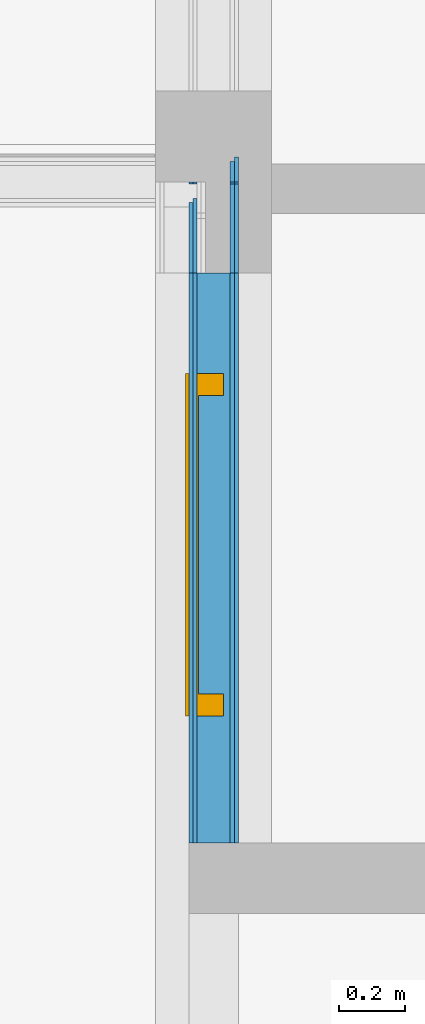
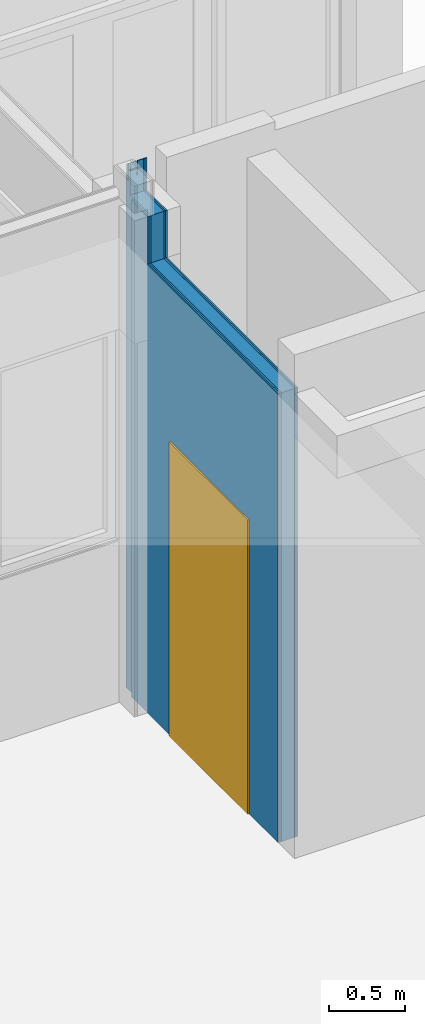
# One storey, part 33 of 54: 5 building element parts, 1 door, 1 opening, 1 element without a shape of its own.
"""IFC2X3 building model written with IfcOpenShell, lengths in millimetres."""

from ifc_helpers import new_model, entity, si_unit, converted_unit, derived_unit, money_unit, direction, frame, origin_with_axes, place, context, subcontext, project, spatial, faceted_brep, source, transform, mapped, material, type_object, type_shapes, element, fill, aggregate, save


model = new_model("IFC2X3")

# Units and contexts
model_context = context("Model", 3, precision=0.01, world=origin_with_axes(), true_north=direction((0.0, 1.0)))
body_context = subcontext(model_context, "Body", "Model", "MODEL_VIEW")
ifc_project = project(units=[si_unit("LENGTHUNIT", "METRE", prefix="MILLI"), si_unit("AREAUNIT", "SQUARE_METRE"), si_unit("VOLUMEUNIT", "CUBIC_METRE"), converted_unit("PLANEANGLEUNIT", "DEGREE", entity("IfcPlaneAngleMeasure", 0.0174532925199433), si_unit("PLANEANGLEUNIT", "RADIAN"), dimensions=[0, 0, 0, 0, 0, 0, 0]), money_unit("EUR"), converted_unit("TIMEUNIT", "Year", entity("IfcTimeMeasure", 31557600.0), si_unit("TIMEUNIT", "SECOND"), dimensions=[0, 0, 1, 0, 0, 0, 0]), si_unit("MASSUNIT", "GRAM", prefix="KILO"), si_unit("THERMODYNAMICTEMPERATUREUNIT", "DEGREE_CELSIUS"), si_unit("LUMINOUSINTENSITYUNIT", "LUMEN"), si_unit("ENERGYUNIT", "JOULE", prefix="MEGA"), derived_unit("THERMALCONDUCTANCEUNIT", [(si_unit("POWERUNIT", "WATT"), 1), (si_unit("LENGTHUNIT", "METRE"), -1), (si_unit("THERMODYNAMICTEMPERATUREUNIT", "KELVIN"), -1)]), derived_unit("SPECIFICHEATCAPACITYUNIT", [(si_unit("ENERGYUNIT", "JOULE"), 1), (si_unit("MASSUNIT", "GRAM", prefix="KILO"), -1), (si_unit("THERMODYNAMICTEMPERATUREUNIT", "KELVIN"), -1)]), derived_unit("MASSDENSITYUNIT", [(si_unit("MASSUNIT", "GRAM", prefix="KILO"), 1), (si_unit("VOLUMEUNIT", "CUBIC_METRE"), -1)])], contexts=[model_context])

# Site, building, storey
site_placement = place(None, origin_with_axes())
site = spatial("IfcSite", under=ifc_project, at=site_placement, Name="<site naam>", CompositionType="ELEMENT")
building_placement = place(site_placement, origin_with_axes())
building = spatial("IfcBuilding", under=site, at=building_placement, Name="<Naam gebouw>", CompositionType="ELEMENT")
storey_placement = place(building_placement, frame((0.0, 0.0, 8500.0), z_axis=(0.0, 0.0, 1.0), x_axis=(1.0, 0.0, 0.0)))
storey = spatial("IfcBuildingStorey", under=building, at=storey_placement, Name="02 2e verdieping", CompositionType="ELEMENT", Elevation=8500.0)

# Door
door_style = type_object("IfcDoorStyle", Name="D1 27", ConstructionType="NOTDEFINED", OperationType="SINGLE_SWING_RIGHT", ParameterTakesPrecedence=False, Sizeable=False)
shared_shape = source(origin_with_axes(), body_context, "Body", "Brep", [
    faceted_brep([(-449.9999999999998, -40.0, 0.0), (-450.0, -39.99999999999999, 2300.0), (-450.0, -114.0, 2300.0), (-450.0, -114.0, 0.0), (-467.0, -40.0, 2300.0), (-467.0, -40.0, 0.0), (-467.0, 0.0, 2300.0), (-517.0, 0.0, 2300.0), (-517.0, -114.0, 2300.0), (-517.0, -114.0, 0.0), (-517.0, 0.0, 0.0), (-467.0, 0.0, 0.0)], [[[0, 1, 2, 3]], [[4, 1, 0, 5]], [[4, 6, 7, 8, 2, 1]], [[3, 2, 8, 9]], [[5, 0, 3, 9, 10, 11]], [[6, 4, 5, 11]], [[6, 11, 10, 7]], [[10, 9, 8, 7]]]),
    faceted_brep([(467.0, -40.0, 2300.0), (450.0, -39.99999999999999, 2300.0), (450.0, -114.0, 2300.0), (517.0, -114.0, 2300.0), (517.0, 0.0, 2300.0), (467.0, 0.0, 2300.0), (467.0, -40.0, 0.0), (450.0, -40.0, 0.0), (450.0, -114.0, 0.0), (517.0, -114.0, 0.0), (517.0, 0.0, 0.0), (467.0, 0.0, 0.0)], [[[0, 1, 2, 3, 4, 5]], [[1, 0, 6, 7]], [[1, 7, 8, 2]], [[3, 2, 8, 9]], [[4, 3, 9, 10]], [[11, 5, 4, 10]], [[0, 5, 11, 6]], [[6, 11, 10, 9, 8, 7]]]),
    faceted_brep([(-467.0, 0.0, 2317.0), (-467.0, 0.0, 2300.0), (-517.0, 0.0, 2300.0), (-517.0, 0.0, 2367.0), (517.0, 0.0, 2367.0), (517.0, 0.0, 2300.0), (467.0, 0.0, 2300.0), (467.0, 0.0, 2317.0), (-467.0, -40.0, 2317.0), (-467.0, -40.0, 2300.0), (-450.0, -39.99999999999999, 2300.0), (-450.0, -114.0, 2300.0), (-517.0, -114.0, 2300.0), (-517.0, -114.0, 2367.0), (517.0, -114.0, 2367.0), (517.0, -114.0, 2300.0), (467.0, -40.0, 2300.0), (450.0, -114.0, 2300.0), (450.0, -39.99999999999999, 2300.0), (467.0, -40.0, 2317.0)], [[[0, 1, 2, 3, 4, 5, 6, 7]], [[1, 0, 8, 9]], [[9, 10, 11, 12, 2, 1]], [[2, 12, 13, 3]], [[3, 13, 14, 4]], [[4, 14, 15, 5]], [[16, 6, 5, 15, 17, 18]], [[7, 6, 16, 19]], [[0, 7, 19, 8]], [[16, 18, 10, 9, 8, 19]], [[10, 18, 17, 11]], [[17, 15, 14, 13, 12, 11]]]),
    faceted_brep([(467.0000000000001, 0.0, 0.0), (467.0000000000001, -40.0, 0.0), (-467.0, -40.0, 0.0), (-467.0, 0.0, 0.0), (467.0000000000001, 0.0, 2317.0), (467.0000000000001, -40.00000000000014, 2317.0), (-467.0, -40.00000000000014, 2317.0), (-467.0, 0.0, 2317.0)], [[[0, 1, 2, 3]], [[4, 5, 1, 0]], [[1, 5, 6, 2]], [[3, 2, 6, 7]], [[0, 3, 7, 4]], [[7, 6, 5, 4]]]),
])
type_shapes(door_style, [shared_shape])
wall_placement = place(storey_placement, frame((48000.00000000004, 8000.000000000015, 0.0), z_axis=(0.0, 0.0, 1.0), x_axis=(0.0, -1.0, 0.0)))
opening_placement = place(wall_placement, frame((1094.999999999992, 0.0, 0.0), z_axis=(0.0, 0.0, 1.0), x_axis=(1.0, 0.0, 0.0)))
door_placement = place(opening_placement, frame((450.0000000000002, 0.0, 0.0), z_axis=(0.0, 0.0, 1.0), x_axis=(-1.0, 0.0, 0.0)))
door = element("IfcDoor", 1, at=door_placement, inside=storey, type_object=door_style, Name="22_BI-A-04 sp_305", ObjectType="DOOR", OverallHeight=2367.0, OverallWidth=1034.0, context=body_context, shape_type="MappedRepresentation", body=[
    mapped(shared_shape, transform((450.0000000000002, 85.00000000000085, 0.0))),
])

# Wall, opening
wall_type = type_object("IfcWallType", Name="MS-01 GF 150 ECO DGS/2.100.2.A 150", PredefinedType="NOTDEFINED")
wall = element("IfcWall", 2, at=wall_placement, inside=storey, type_object=wall_type, Name="22_Binnenwand_MS-01")
opening = element("IfcOpeningElement", 3, at=opening_placement, cuts=wall, Name="22_BI-A-04 sp_305", context=body_context, shape_type="Brep", body=[
    faceted_brep([(517.0000000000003, 76.00000000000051, 2367.000000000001), (517.0000000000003, 76.00000000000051, 0.0), (-517.0000000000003, 76.00000000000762, 0.0), (-517.0000000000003, 76.00000000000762, 2367.000000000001), (517.0000000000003, -76.00000000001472, 2367.000000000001), (517.0000000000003, -76.00000000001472, 0.0), (-517.0000000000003, -76.00000000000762, 0.0), (-517.0000000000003, -76.00000000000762, 2367.000000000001)], [[[0, 1, 2, 3]], [[4, 5, 1, 0]], [[5, 6, 2, 1]], [[6, 7, 3, 2]], [[7, 4, 0, 3]], [[6, 5, 4, 7]]]),
])

fill(opening, door)

# Building element part
ifc_material_1 = material(Name="gipsplaat")
building_element_part_1_placement = place(wall_placement, origin_with_axes())
building_element_part_1 = element("IfcBuildingElementPart", 4, at=building_element_part_1_placement, material=ifc_material_1, Name="gipsplaat", context=body_context, shape_type="Brep", body=[
    faceted_brep([(5.546149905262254, 62.5, 4250.0), (5.546149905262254, 75.00000000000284, 4250.0), (0.0, 75.00000000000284, 4250.0), (0.0, 62.5, 4250.0), (5.546149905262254, 75.00000000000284, 3990.0), (5.546149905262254, 62.5, 3990.0), (274.9999999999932, 75.00000000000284, 3610.000000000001), (1995.000001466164, 75.00000000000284, 3610.000000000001), (1995.000001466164, 75.00000000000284, 0.0), (-75.0000274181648, 75.00000000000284, 0.0), (-75.0000274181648, 75.00000000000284, 4119.999999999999), (0.0, 75.00000000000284, 4119.999999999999), (274.9999999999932, 75.00000000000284, 3990.0), (0.0, 62.5, 4119.999999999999), (-75.0000274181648, 62.5, 4119.999999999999), (-75.0000274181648, 62.5, 0.0), (1995.000001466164, 62.5, 0.0), (1995.000001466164, 62.5, 3610.000000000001), (274.9999999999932, 62.5, 3610.000000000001), (274.9999999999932, 62.5, 3990.0)], [[[0, 1, 2, 3]], [[4, 1, 0, 5]], [[6, 7, 8, 9, 10, 11, 2, 1, 4, 12]], [[3, 2, 11, 13]], [[5, 0, 3, 13, 14, 15, 16, 17, 18, 19]], [[12, 4, 5, 19]], [[7, 6, 18, 17]], [[7, 17, 16, 8]], [[16, 15, 9, 8]], [[14, 10, 9, 15]], [[11, 10, 14, 13]], [[6, 12, 19, 18]]]),
])

building_element_part_2_placement = place(wall_placement, origin_with_axes())
building_element_part_2 = element("IfcBuildingElementPart", 5, at=building_element_part_2_placement, material=ifc_material_1, Name="gipsplaat", context=body_context, shape_type="Brep", body=[
    faceted_brep([(5.546149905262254, 49.99999999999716, 4250.0), (5.546149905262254, 62.5, 4250.0), (0.0, 62.5, 4250.0), (0.0, 49.99999999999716, 4250.0), (5.546149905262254, 62.5, 3990.0), (5.546149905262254, 49.99999999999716, 3990.0), (274.9999999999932, 62.5, 3610.000000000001), (1995.000001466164, 62.5, 3610.000000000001), (1995.000001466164, 62.5, 0.0), (-62.50000000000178, 62.5, 0.0), (-62.50000000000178, 62.5, 4119.999999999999), (0.0, 62.5, 4119.999999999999), (274.9999999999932, 62.5, 3990.0), (0.0, 49.99999999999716, 4119.999999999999), (-62.50000000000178, 49.99999999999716, 4119.999999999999), (-62.50000000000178, 49.99999999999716, 0.0), (1995.000001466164, 49.99999999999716, 0.0), (1995.000001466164, 49.99999999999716, 3610.000000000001), (274.9999999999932, 49.99999999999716, 3610.000000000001), (274.9999999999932, 49.99999999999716, 3990.0)], [[[0, 1, 2, 3]], [[4, 1, 0, 5]], [[6, 7, 8, 9, 10, 11, 2, 1, 4, 12]], [[3, 2, 11, 13]], [[5, 0, 3, 13, 14, 15, 16, 17, 18, 19]], [[12, 4, 5, 19]], [[7, 6, 18, 17]], [[7, 17, 16, 8]], [[9, 8, 16, 15]], [[10, 9, 15, 14]], [[14, 13, 11, 10]], [[6, 12, 19, 18]]]),
])

ifc_material_2 = material(Name="isolatie_steenwol LSW")
building_element_part_3_placement = place(wall_placement, origin_with_axes())
building_element_part_3 = element("IfcBuildingElementPart", 6, at=building_element_part_3_placement, material=ifc_material_2, Name="isolatie_steenwol LSW", context=body_context, shape_type="Brep", body=[
    faceted_brep([(5.546149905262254, 4.749999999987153, 4250.0), (5.546149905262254, 49.99999999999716, 4250.0), (0.0, 49.99999999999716, 4250.0), (0.0, 4.749999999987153, 4250.0), (5.546149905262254, 49.99999999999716, 3990.0), (5.546149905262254, 4.749999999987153, 4135.38538922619), (5.546149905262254, -4.750000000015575, 4135.38538922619), (5.546149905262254, -4.750000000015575, 4250.0), (5.546149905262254, -49.99999999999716, 4250.0), (5.546149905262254, -50.00000000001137, 3990.0), (274.9999999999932, 49.99999999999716, 3610.000000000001), (1995.000001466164, 49.99999999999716, 3610.000000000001), (1995.000001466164, 49.99999999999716, 0.0), (-50.00000000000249, 49.99999999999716, 0.0), (-50.00000000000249, 49.99999999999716, 4119.999999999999), (0.0, 49.99999999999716, 4119.999999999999), (274.9999999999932, 49.99999999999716, 3990.0), (0.0, -4.750000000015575, 4135.38538922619), (0.0, 4.749999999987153, 4135.38538922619), (0.0, -49.99999999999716, 4119.999999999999), (0.0, -49.99999999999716, 4250.0), (0.0, -4.750000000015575, 4250.0), (-50.00000000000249, -50.00000000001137, 4119.999999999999), (-50.00000000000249, -49.99999999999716, 0.0), (78.38453422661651, -49.99999999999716, 0.0), (78.38453422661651, -50.00000000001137, 3.000000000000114), (275.0000163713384, -50.00000000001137, 3.000000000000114), (275.0000163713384, -49.99999999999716, 0.0), (1995.000001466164, -49.99999999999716, 0.0), (1995.000001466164, -49.99999999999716, 3610.000000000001), (274.9999999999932, -50.00000000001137, 3610.000000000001), (274.9999999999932, -50.00000000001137, 3990.0), (275.0000163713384, -15.49385583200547, 0.0), (78.38453422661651, -15.49385583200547, 0.0), (78.38453422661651, -15.49385583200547, 3.000000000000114), (275.0000163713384, -15.49385583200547, 3.000000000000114)], [[[0, 1, 2, 3]], [[4, 1, 0, 5, 6, 7, 8, 9]], [[10, 11, 12, 13, 14, 15, 2, 1, 4, 16]], [[17, 18, 3, 2, 15, 19, 20, 21]], [[5, 0, 3, 18]], [[6, 5, 18, 17]], [[7, 6, 17, 21]], [[8, 7, 21, 20]], [[9, 8, 20, 19, 22, 23, 24, 25, 26, 27, 28, 29, 30, 31]], [[16, 4, 9, 31]], [[11, 10, 30, 29]], [[11, 29, 28, 12]], [[12, 28, 27, 32, 33, 24, 23, 13]], [[14, 13, 23, 22]], [[22, 19, 15, 14]], [[10, 16, 31, 30]], [[34, 25, 24, 33]], [[34, 35, 26, 25]], [[26, 35, 32, 27]], [[35, 34, 33, 32]]]),
])

building_element_part_4_placement = place(wall_placement, origin_with_axes())
building_element_part_4 = element("IfcBuildingElementPart", 7, at=building_element_part_4_placement, material=ifc_material_1, Name="gipsplaat", context=body_context, shape_type="Brep", body=[
    faceted_brep([(49.99999999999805, -62.5, 3990.0), (49.99999999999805, -49.99999999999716, 3990.0), (49.99999999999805, -49.99999999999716, 0.0), (49.99999999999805, -62.5, 0.0), (274.9999999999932, -49.99999999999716, 3990.0), (274.9999999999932, -62.5, 3990.0), (274.9999999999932, -49.99999999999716, 3610.000000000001), (1995.000001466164, -49.99999999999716, 3610.000000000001), (1995.000001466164, -49.99999999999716, 0.0), (275.0000163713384, -49.99999999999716, 0.0), (275.0000163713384, -49.99999999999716, 3.000000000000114), (78.38453422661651, -49.99999999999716, 3.000000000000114), (78.38453422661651, -49.99999999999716, 0.0), (78.38453422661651, -62.5, 0.0), (78.38453422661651, -62.5, 3.000000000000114), (275.0000163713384, -62.5, 3.000000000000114), (275.0000163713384, -62.5, 0.0), (1995.000001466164, -62.5, 0.0), (1995.000001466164, -62.5, 3610.000000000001), (274.9999999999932, -62.5, 3610.000000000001)], [[[0, 1, 2, 3]], [[4, 1, 0, 5]], [[6, 7, 8, 9, 10, 11, 12, 2, 1, 4]], [[3, 2, 12, 13]], [[5, 0, 3, 13, 14, 15, 16, 17, 18, 19]], [[6, 4, 5, 19]], [[7, 6, 19, 18]], [[7, 18, 17, 8]], [[8, 17, 16, 9]], [[16, 15, 10, 9]], [[15, 14, 11, 10]], [[14, 13, 12, 11]]]),
    faceted_brep([(5.546149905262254, -62.5, 4250.0), (5.546149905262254, -49.99999999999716, 4250.0), (0.0, -49.99999999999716, 4250.0), (0.0, -62.5, 4250.0), (5.546149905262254, -49.99999999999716, 4119.999999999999), (5.546149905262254, -62.5, 4119.999999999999), (0.0, -49.99999999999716, 4119.999999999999), (0.0, -62.5, 4119.999999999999)], [[[0, 1, 2, 3]], [[4, 1, 0, 5]], [[1, 4, 6, 2]], [[7, 3, 2, 6]], [[5, 0, 3, 7]], [[4, 5, 7, 6]]]),
])

building_element_part_5_placement = place(wall_placement, origin_with_axes())
building_element_part_5 = element("IfcBuildingElementPart", 8, at=building_element_part_5_placement, material=ifc_material_1, Name="gipsplaat", context=body_context, shape_type="Brep", body=[
    faceted_brep([(62.49999999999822, -75.00000000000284, 3990.0), (62.49999999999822, -62.5, 3990.0), (62.49999999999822, -62.5, 0.0), (62.49999999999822, -75.00000000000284, 0.0), (274.9999999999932, -62.5, 3990.0), (274.9999999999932, -75.00000000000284, 3990.0), (274.9999999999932, -62.5, 3610.000000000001), (1995.000001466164, -62.5, 3610.000000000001), (1995.000001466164, -62.5, 0.0), (275.0000163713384, -62.5, 0.0), (275.0000163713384, -62.5, 3.000000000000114), (78.38453422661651, -62.5, 3.000000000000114), (78.38453422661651, -62.5, 0.0), (78.38453422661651, -75.00000000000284, 0.0), (78.38453422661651, -75.00000000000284, 3.000000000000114), (275.0000163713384, -75.00000000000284, 3.000000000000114), (275.0000163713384, -75.00000000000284, 0.0), (1995.000001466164, -75.00000000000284, 0.0), (1995.000001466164, -75.00000000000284, 3610.000000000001), (274.9999999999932, -75.00000000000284, 3610.000000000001)], [[[0, 1, 2, 3]], [[4, 1, 0, 5]], [[6, 7, 8, 9, 10, 11, 12, 2, 1, 4]], [[3, 2, 12, 13]], [[5, 0, 3, 13, 14, 15, 16, 17, 18, 19]], [[6, 4, 5, 19]], [[7, 6, 19, 18]], [[7, 18, 17, 8]], [[8, 17, 16, 9]], [[16, 15, 10, 9]], [[15, 14, 11, 10]], [[14, 13, 12, 11]]]),
    faceted_brep([(5.546149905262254, -75.00000000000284, 4250.0), (5.546149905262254, -62.5, 4250.0), (0.0, -62.5, 4250.0), (0.0, -75.00000000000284, 4250.0), (5.546149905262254, -62.5, 4119.999999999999), (5.546149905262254, -75.00000000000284, 4119.999999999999), (0.0, -62.5, 4119.999999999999), (0.0, -75.00000000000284, 4119.999999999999)], [[[0, 1, 2, 3]], [[4, 1, 0, 5]], [[1, 4, 6, 2]], [[7, 3, 2, 6]], [[5, 0, 3, 7]], [[4, 5, 7, 6]]]),
])

aggregate(wall, [building_element_part_1, building_element_part_2, building_element_part_3, building_element_part_4, building_element_part_5])

save(model, "model.ifc")
